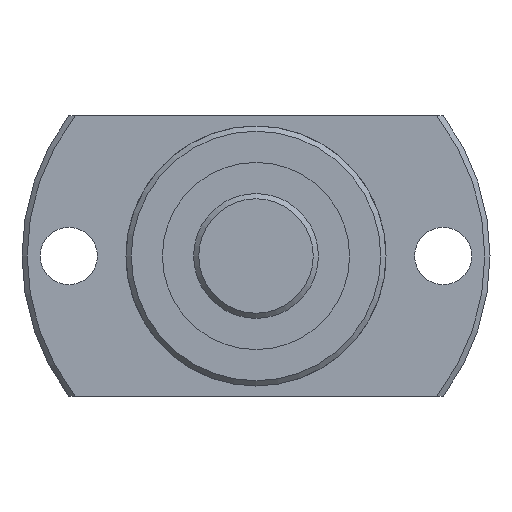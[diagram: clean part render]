
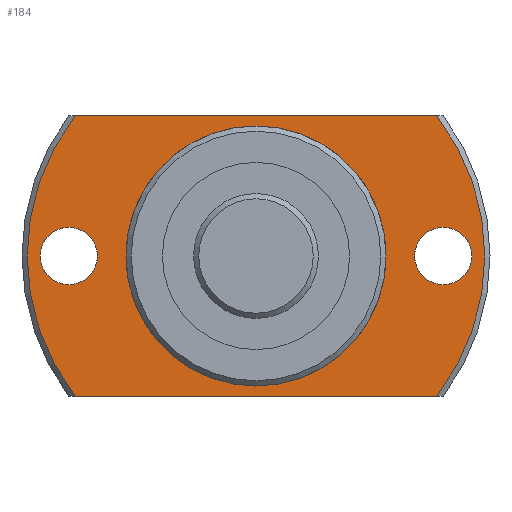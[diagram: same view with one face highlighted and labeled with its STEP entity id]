
A CAD part, left-side view. The second image highlights one B-rep face of the part: STEP entity #184.
In plain terms, the highlighted planar face has unit normal (-1, 0, 0).
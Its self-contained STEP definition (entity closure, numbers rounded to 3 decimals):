
#184 = ADVANCED_FACE( '', ( #399, #400, #401, #402 ), #403, .F. );
#399 = FACE_OUTER_BOUND( '', #663, .T. );
#400 = FACE_BOUND( '', #664, .T. );
#401 = FACE_BOUND( '', #665, .T. );
#402 = FACE_BOUND( '', #666, .T. );
#403 = PLANE( '', #667 );
#663 = EDGE_LOOP( '', ( #1013, #1014, #1015, #1016 ) );
#664 = EDGE_LOOP( '', ( #1017 ) );
#665 = EDGE_LOOP( '', ( #1018 ) );
#666 = EDGE_LOOP( '', ( #1019 ) );
#667 = AXIS2_PLACEMENT_3D( '', #1020, #1021, #1022 );
#1013 = ORIENTED_EDGE( '', *, *, #1512, .F. );
#1014 = ORIENTED_EDGE( '', *, *, #1513, .T. );
#1015 = ORIENTED_EDGE( '', *, *, #1472, .F. );
#1016 = ORIENTED_EDGE( '', *, *, #1514, .T. );
#1017 = ORIENTED_EDGE( '', *, *, #1515, .T. );
#1018 = ORIENTED_EDGE( '', *, *, #1429, .T. );
#1019 = ORIENTED_EDGE( '', *, *, #1463, .T. );
#1020 = CARTESIAN_POINT( '', ( 19., 12.25, 0. ) );
#1021 = DIRECTION( '', ( 1., 0., 0. ) );
#1022 = DIRECTION( '', ( 0., 0., -1. ) );
#1429 = EDGE_CURVE( '', #1658, #1658, #1659, .T. );
#1463 = EDGE_CURVE( '', #1718, #1718, #1719, .T. );
#1472 = EDGE_CURVE( '', #1732, #1733, #1734, .T. );
#1512 = EDGE_CURVE( '', #1797, #1798, #1799, .T. );
#1513 = EDGE_CURVE( '', #1797, #1733, #1800, .T. );
#1514 = EDGE_CURVE( '', #1732, #1798, #1801, .T. );
#1515 = EDGE_CURVE( '', #1802, #1802, #1803, .T. );
#1658 = VERTEX_POINT( '', #2002 );
#1659 = CIRCLE( '', #2003, 2.75 );
#1718 = VERTEX_POINT( '', #2083 );
#1719 = CIRCLE( '', #2084, 12.25 );
#1732 = VERTEX_POINT( '', #2102 );
#1733 = VERTEX_POINT( '', #2103 );
#1734 = CIRCLE( '', #2104, 22. );
#1797 = VERTEX_POINT( '', #2183 );
#1798 = VERTEX_POINT( '', #2184 );
#1799 = CIRCLE( '', #2185, 22. );
#1800 = LINE( '', #2186, #2187 );
#1801 = LINE( '', #2188, #2189 );
#1802 = VERTEX_POINT( '', #2190 );
#1803 = CIRCLE( '', #2191, 2.75 );
#2002 = CARTESIAN_POINT( '', ( 19., -18., -2.75 ) );
#2003 = AXIS2_PLACEMENT_3D( '', #2446, #2447, #2448 );
#2083 = CARTESIAN_POINT( '', ( 19., 0., -12.25 ) );
#2084 = AXIS2_PLACEMENT_3D( '', #2494, #2495, #2496 );
#2102 = CARTESIAN_POINT( '', ( 19., -17.371, 13.5 ) );
#2103 = CARTESIAN_POINT( '', ( 19., -17.371, -13.5 ) );
#2104 = AXIS2_PLACEMENT_3D( '', #2505, #2506, #2507 );
#2183 = CARTESIAN_POINT( '', ( 19., 17.371, -13.5 ) );
#2184 = CARTESIAN_POINT( '', ( 19., 17.371, 13.5 ) );
#2185 = AXIS2_PLACEMENT_3D( '', #2563, #2564, #2565 );
#2186 = CARTESIAN_POINT( '', ( 19., 12.25, -13.5 ) );
#2187 = VECTOR( '', #2566, 1000. );
#2188 = CARTESIAN_POINT( '', ( 19., 12.25, 13.5 ) );
#2189 = VECTOR( '', #2567, 1000. );
#2190 = CARTESIAN_POINT( '', ( 19., 18., -2.75 ) );
#2191 = AXIS2_PLACEMENT_3D( '', #2568, #2569, #2570 );
#2446 = CARTESIAN_POINT( '', ( 19., -18., 0. ) );
#2447 = DIRECTION( '', ( 1., 0., 0. ) );
#2448 = DIRECTION( '', ( 0., 0., -1. ) );
#2494 = CARTESIAN_POINT( '', ( 19., 0., 0. ) );
#2495 = DIRECTION( '', ( 1., 0., 0. ) );
#2496 = DIRECTION( '', ( 0., 0., -1. ) );
#2505 = CARTESIAN_POINT( '', ( 19., 0., 0. ) );
#2506 = DIRECTION( '', ( 1., 0., 0. ) );
#2507 = DIRECTION( '', ( 0., 0., -1. ) );
#2563 = CARTESIAN_POINT( '', ( 19., 0., 0. ) );
#2564 = DIRECTION( '', ( 1., 0., 0. ) );
#2565 = DIRECTION( '', ( 0., 0., -1. ) );
#2566 = DIRECTION( '', ( 0., -1., 0. ) );
#2567 = DIRECTION( '', ( 0., 1., 0. ) );
#2568 = CARTESIAN_POINT( '', ( 19., 18., 0. ) );
#2569 = DIRECTION( '', ( 1., 0., 0. ) );
#2570 = DIRECTION( '', ( 0., 0., -1. ) );
